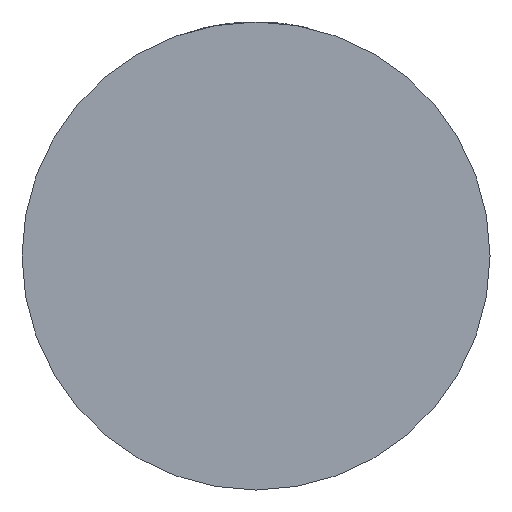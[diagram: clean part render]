
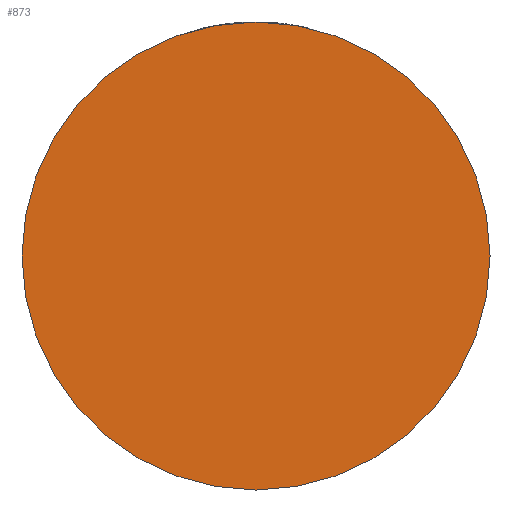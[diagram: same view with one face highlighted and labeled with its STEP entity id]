
A CAD part, front view. The second image highlights one B-rep face of the part: STEP entity #873.
In plain terms, the highlighted planar face has unit normal (0, -1, 0).
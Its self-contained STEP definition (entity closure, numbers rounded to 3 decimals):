
#216 = CARTESIAN_POINT ( 'NONE',  ( -40., -28., 0. ) ) ;
#355 = CARTESIAN_POINT ( 'NONE',  ( 40., -28., 0. ) ) ;
#377 = DIRECTION ( 'NONE',  ( 0., -1., 0. ) ) ;
#502 = PLANE ( 'NONE',  #3728 ) ;
#873 = ADVANCED_FACE ( 'NONE', ( #1259 ), #502, .T. ) ;
#925 = EDGE_CURVE ( 'NONE', #2907, #1960, #1964, .T. ) ;
#1056 = CARTESIAN_POINT ( 'NONE',  ( 0., -28., 0. ) ) ;
#1259 = FACE_OUTER_BOUND ( 'NONE', #2408, .T. ) ;
#1591 = DIRECTION ( 'NONE',  ( 0., -1., 0. ) ) ;
#1863 = DIRECTION ( 'NONE',  ( 1., 0., 0. ) ) ;
#1895 = ORIENTED_EDGE ( 'NONE', *, *, #925, .T. ) ;
#1960 = VERTEX_POINT ( 'NONE', #216 ) ;
#1964 = CIRCLE ( 'NONE', #2814, 40. ) ;
#2408 = EDGE_LOOP ( 'NONE', ( #3391, #1895 ) ) ;
#2577 = DIRECTION ( 'NONE',  ( 1., 0., 0. ) ) ;
#2786 = DIRECTION ( 'NONE',  ( 1., 0., 0. ) ) ;
#2814 = AXIS2_PLACEMENT_3D ( 'NONE', #2929, #2954, #1863 ) ;
#2906 = CARTESIAN_POINT ( 'NONE',  ( 0., -28., 0. ) ) ;
#2907 = VERTEX_POINT ( 'NONE', #355 ) ;
#2929 = CARTESIAN_POINT ( 'NONE',  ( 0., -28., 0. ) ) ;
#2954 = DIRECTION ( 'NONE',  ( 0., -1., 0. ) ) ;
#3018 = AXIS2_PLACEMENT_3D ( 'NONE', #1056, #377, #2786 ) ;
#3215 = EDGE_CURVE ( 'NONE', #1960, #2907, #4216, .T. ) ;
#3391 = ORIENTED_EDGE ( 'NONE', *, *, #3215, .T. ) ;
#3728 = AXIS2_PLACEMENT_3D ( 'NONE', #2906, #1591, #2577 ) ;
#4216 = CIRCLE ( 'NONE', #3018, 40. ) ;
